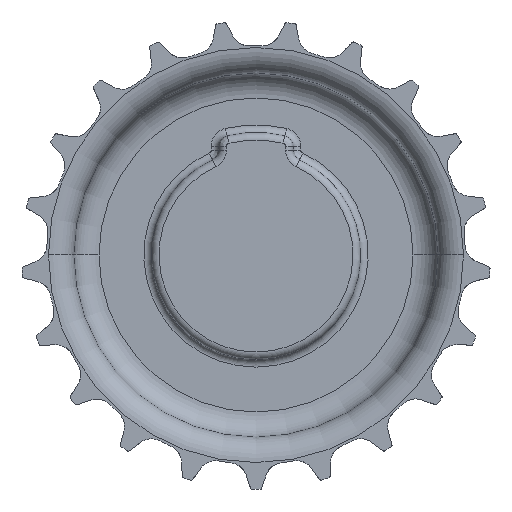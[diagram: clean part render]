
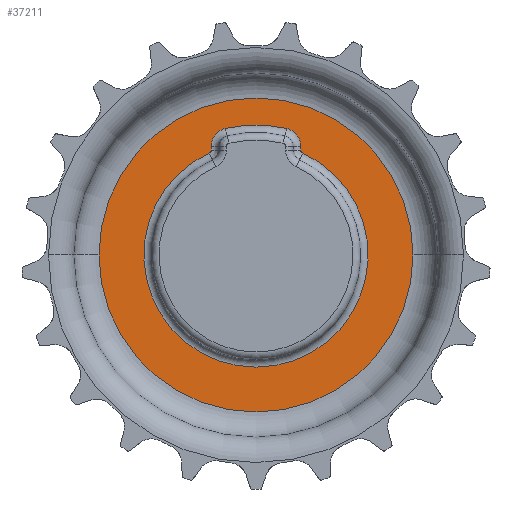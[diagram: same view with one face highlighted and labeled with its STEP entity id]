
A CAD part, left-side view. The second image highlights one B-rep face of the part: STEP entity #37211.
In plain terms, the highlighted planar face has unit normal (-1, 0, 0).
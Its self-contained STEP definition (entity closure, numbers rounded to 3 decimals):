
#12659=CARTESIAN_POINT('',(-4.15,0.,0.));
#12660=DIRECTION('',(1.,0.,0.));
#12661=DIRECTION('',(0.,1.,0.));
#12662=AXIS2_PLACEMENT_3D('',#12659,#12660,#12661);
#12683=CARTESIAN_POINT('',(-4.15,-13.3,29.105));
#12684=DIRECTION('',(1.,0.,0.));
#12685=DIRECTION('',(0.,0.416,-0.91));
#12686=AXIS2_PLACEMENT_3D('',#12683,#12684,#12685);
#12691=DIRECTION('',(0.,0.,1.));
#12692=VECTOR('',#12691,1.023);
#12693=CARTESIAN_POINT('',(-4.15,-12.4,29.105));
#12694=LINE('',#12693,#12692);
#12698=CARTESIAN_POINT('',(-4.15,-7.3,30.128));
#12699=DIRECTION('',(-1.,0.,0.));
#12700=DIRECTION('',(0.,-1.,0.));
#12701=AXIS2_PLACEMENT_3D('',#12698,#12699,#12700);
#12706=CARTESIAN_POINT('',(-4.15,0.,0.));
#12707=DIRECTION('',(-1.,0.,0.));
#12708=DIRECTION('',(0.,-0.235,0.972));
#12709=AXIS2_PLACEMENT_3D('',#12706,#12707,#12708);
#12714=CARTESIAN_POINT('',(-4.15,7.3,30.128));
#12715=DIRECTION('',(-1.,0.,0.));
#12716=DIRECTION('',(0.,0.235,0.972));
#12717=AXIS2_PLACEMENT_3D('',#12714,#12715,#12716);
#12722=DIRECTION('',(0.,0.,-1.));
#12723=VECTOR('',#12722,1.023);
#12724=CARTESIAN_POINT('',(-4.15,12.4,30.128));
#12725=LINE('',#12724,#12723);
#12729=CARTESIAN_POINT('',(-4.15,13.3,29.105));
#12730=DIRECTION('',(1.,0.,0.));
#12731=DIRECTION('',(0.,-1.,0.));
#12732=AXIS2_PLACEMENT_3D('',#12729,#12730,#12731);
#12737=CARTESIAN_POINT('',(-4.15,0.,0.));
#12738=DIRECTION('',(-1.,0.,0.));
#12739=DIRECTION('',(0.,0.416,0.91));
#12740=AXIS2_PLACEMENT_3D('',#12737,#12738,#12739);
#12745=CARTESIAN_POINT('',(-4.15,0.,0.));
#12746=DIRECTION('',(1.,0.,0.));
#12747=DIRECTION('',(0.,-1.,0.));
#12748=AXIS2_PLACEMENT_3D('',#12745,#12746,#12747);
#27768=CARTESIAN_POINT('',(-4.15,43.535,0.));
#27769=CARTESIAN_POINT('',(-4.15,-43.535,0.));
#27770=VERTEX_POINT('',#27768);
#27771=VERTEX_POINT('',#27769);
#30414=CARTESIAN_POINT('',(-4.15,-12.926,28.287));
#30415=CARTESIAN_POINT('',(-4.15,-12.4,29.105));
#30416=VERTEX_POINT('',#30414);
#30417=VERTEX_POINT('',#30415);
#30422=CARTESIAN_POINT('',(-4.15,-12.4,30.128));
#30423=VERTEX_POINT('',#30422);
#30426=CARTESIAN_POINT('',(-4.15,-8.501,35.085));
#30427=VERTEX_POINT('',#30426);
#30430=CARTESIAN_POINT('',(-4.15,8.501,35.085));
#30431=VERTEX_POINT('',#30430);
#30434=CARTESIAN_POINT('',(-4.15,12.4,30.128));
#30435=VERTEX_POINT('',#30434);
#30438=CARTESIAN_POINT('',(-4.15,12.4,29.105));
#30439=VERTEX_POINT('',#30438);
#30442=CARTESIAN_POINT('',(-4.15,12.926,28.287));
#30443=VERTEX_POINT('',#30442);
#37183=CARTESIAN_POINT('',(-4.15,0.,0.));
#37184=DIRECTION('',(1.,0.,0.));
#37185=DIRECTION('',(0.,1.,0.));
#37186=AXIS2_PLACEMENT_3D('',#37183,#37184,#37185);
#37187=PLANE('',#37186);
#37188=ORIENTED_EDGE('',*,*,#37173,.T.);
#37190=ORIENTED_EDGE('',*,*,#37189,.T.);
#37191=EDGE_LOOP('',(#37188,#37190));
#37192=FACE_OUTER_BOUND('',#37191,.F.);
#37194=ORIENTED_EDGE('',*,*,#37193,.T.);
#37196=ORIENTED_EDGE('',*,*,#37195,.T.);
#37198=ORIENTED_EDGE('',*,*,#37197,.T.);
#37200=ORIENTED_EDGE('',*,*,#37199,.T.);
#37202=ORIENTED_EDGE('',*,*,#37201,.T.);
#37204=ORIENTED_EDGE('',*,*,#37203,.T.);
#37206=ORIENTED_EDGE('',*,*,#37205,.T.);
#37208=ORIENTED_EDGE('',*,*,#37207,.T.);
#37209=EDGE_LOOP('',(#37194,#37196,#37198,#37200,#37202,#37204,#37206,#37208));
#37210=FACE_BOUND('',#37209,.F.);
#12663=CIRCLE('',#12662,43.535);
#12687=CIRCLE('',#12686,0.9);
#12702=CIRCLE('',#12701,5.1);
#12710=CIRCLE('',#12709,36.1);
#12718=CIRCLE('',#12717,5.1);
#12733=CIRCLE('',#12732,0.9);
#12741=CIRCLE('',#12740,31.1);
#12749=CIRCLE('',#12748,43.535);
#37173=EDGE_CURVE('',#27770,#27771,#12663,.T.);
#37189=EDGE_CURVE('',#27771,#27770,#12749,.T.);
#37193=EDGE_CURVE('',#30416,#30417,#12687,.T.);
#37195=EDGE_CURVE('',#30417,#30423,#12694,.T.);
#37197=EDGE_CURVE('',#30423,#30427,#12702,.T.);
#37199=EDGE_CURVE('',#30427,#30431,#12710,.T.);
#37201=EDGE_CURVE('',#30431,#30435,#12718,.T.);
#37203=EDGE_CURVE('',#30435,#30439,#12725,.T.);
#37205=EDGE_CURVE('',#30439,#30443,#12733,.T.);
#37207=EDGE_CURVE('',#30443,#30416,#12741,.T.);
#37211=ADVANCED_FACE('',(#37192,#37210),#37187,.F.);
